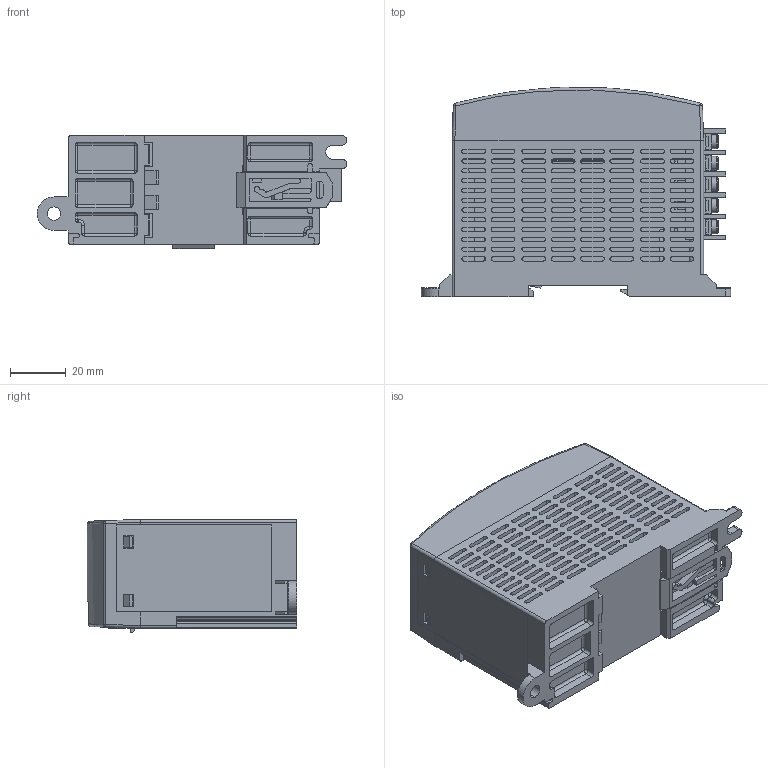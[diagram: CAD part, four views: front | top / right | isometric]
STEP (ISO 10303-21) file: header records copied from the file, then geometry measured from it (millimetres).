
FILE_DESCRIPTION((''),'2;1');
FILE_NAME('SHRINKWRAP_SW0001','2018-11-02T22:34:22',('skang'),('Rockwell Automation'),'CREO PARAMETRIC BY PTC INC, 2017380','CREO PARAMETRIC BY PTC INC, 2017380','');
FILE_SCHEMA(('CONFIG_CONTROL_DESIGN'));
Products named in the file (1): SHRINKWRAP_SW0001
Bounding box: 110.7 x 75 x 40.5 mm (x, y, z)
Volume: 59529.3 mm3; surface area: 63454.3 mm2
Topology: 2 solids, 2 shells, 1944 faces, 5817 edges, 3915 vertices
Faces by surface type: plane 1256, cylinder 495, extrusion 120, sphere 28, torus 28, bspline 10, cone 7
Entity records: 72306 total; most frequent: CARTESIAN_POINT 20428, ORIENTED_EDGE 11578, DIRECTION 9467, EDGE_CURVE 5789, VECTOR 3971, VERTEX_POINT 3915, LINE 3851, AXIS2_PLACEMENT_3D 2748
